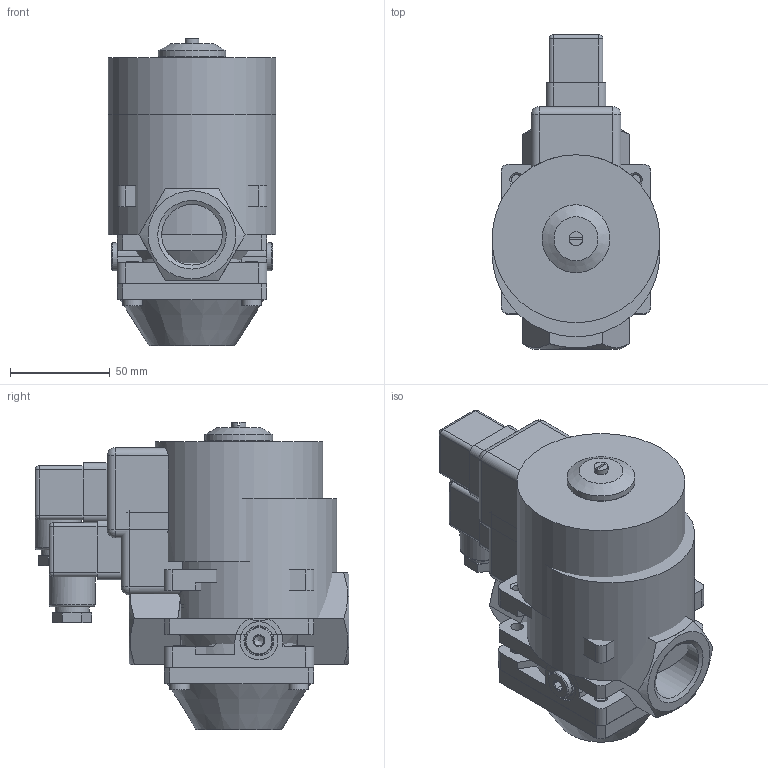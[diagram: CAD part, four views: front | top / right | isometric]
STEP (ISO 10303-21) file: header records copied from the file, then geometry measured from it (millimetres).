
FILE_DESCRIPTION( ( 'Unknown' ), '1' );
FILE_NAME( 'D:/Wyroby/Widoki gabarytowe/Zawory ZEG/ZEG_25/ZEG_25.stp', 'Unknown', ( 'Unknown' ), ( 'Unknown' ), 'XStep 1.0', 'Unknown', ' ' );
FILE_SCHEMA( ( 'CONFIG_CONTROL_DESIGN' ) );
Length unit declared in the file: millimetre
Products named in the file (34): Wa_136_01_00; Wa_007_01_02; Assem1; Wa_136_01_02; Wa_136_01_02_003; Wa_136_01_02_001; Wa_136_01_02_005; Oring7,6x2,62rozci鉚ni皻y8; Wa_136_01_02_004; Wa_136_01_02_006; Wa_136_01_02_002zaci從i黎a; Wa_007_01_02_003k1; Wa_007_01_02_002k1; Wa_007_01_02_001k1; Wa_136_01_00_001; Wa_007_01_00_002; Wa_136_01_00_005; Wa_136_01_00_002; Wa_136_01_00_003彡i從i黎a21,5; Wa_007_01_00_007; W-008 wkrêt m4x12; Wa_136_01_00_007彡i從i黎a16; Wa_007_01_00_005彡i從.; Œ-008ImbusM6x16; Wa_031_01_00_011; Wa_031_01_00_009; Wa_136_01_01; Cewka_25B
Bounding box: 84 x 157 x 153.8 mm (x, y, z)
Volume: 1523603.6 mm3; surface area: 459799.4 mm2
Topology: 99 solids, 99 shells, 1805 faces, 3919 edges, 2488 vertices
Faces by surface type: plane 874, cylinder 540, cone 283, torus 59, sphere 25, bspline 15, extrusion 9
Full cylindrical faces by diameter (mm): 1.5 x3, 2 x4, 2.5 x3, 3 x3, 3.242 x4, 4 x6, 4.134 x4, 4.2 x3, 4.917 x12, 5 x8, 6 x16, 6.2 x15, 6.5 x4, 7 x3, 8 x7, 8.566 x6, 8.917 x4, 10 x20, 10.1 x4, 10.5 x12, 11 x12, 11.5 x3, 12 x10, 12.8 x3, 13 x4, 14 x10, 15 x6, 16 x7, 17 x2, 18 x15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
Entity records: 19872 total; most frequent: CARTESIAN_POINT 6853, DIRECTION 2512, ORIENTED_EDGE 1910, AXIS2_PLACEMENT_3D 1071, EDGE_CURVE 955, EDGE_LOOP 900, VERTEX_POINT 730, FACE_OUTER_BOUND 702
